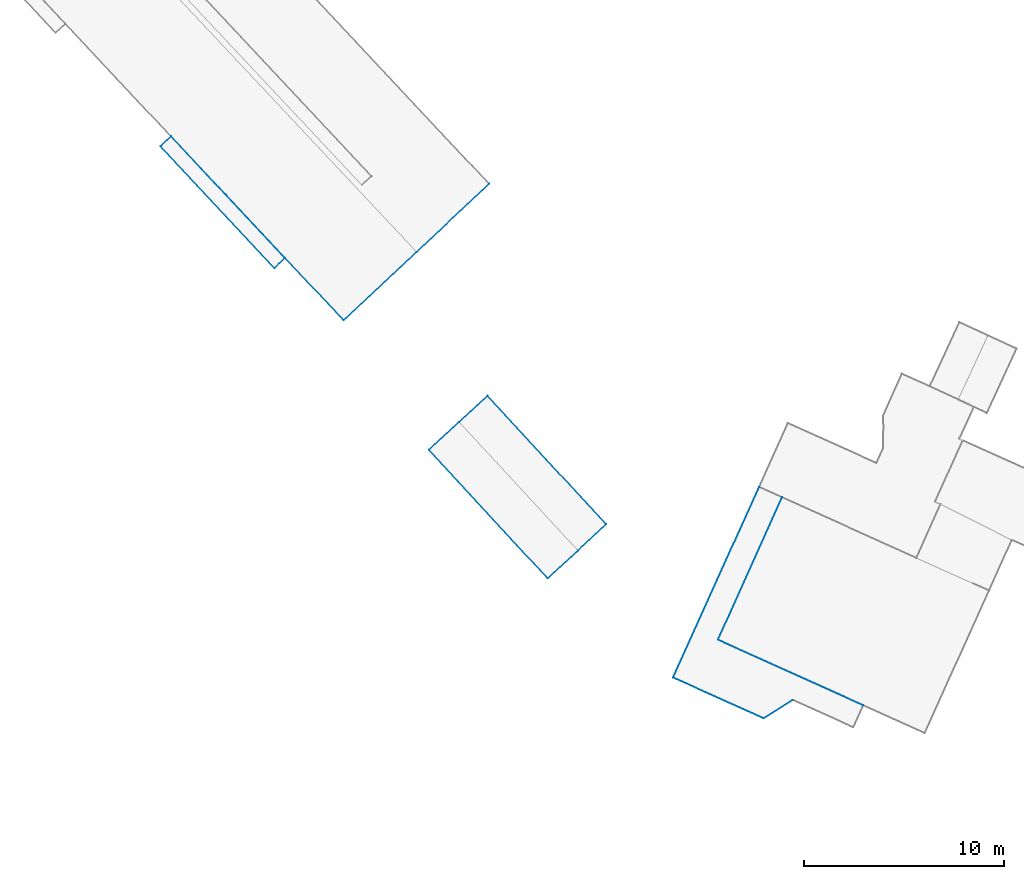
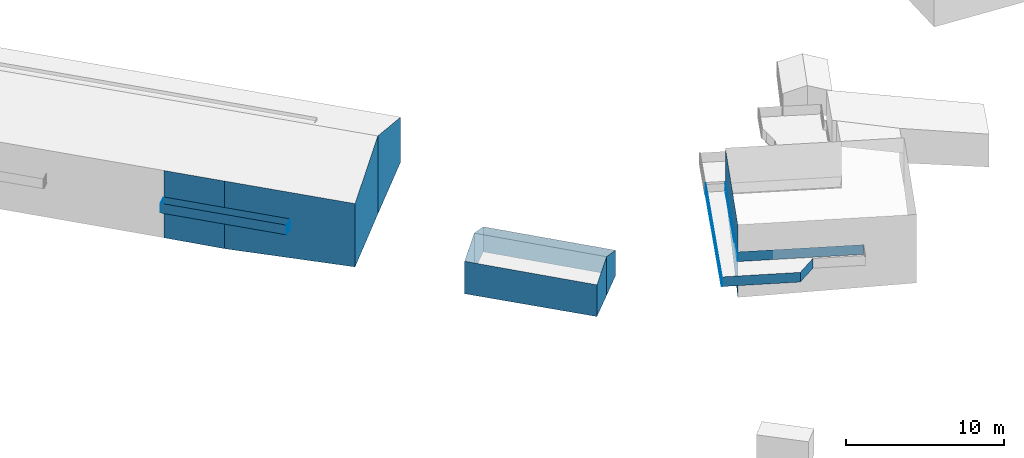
# Not in any storey, part 57 of 136: 29 walls.
"""IFC4 building model written with IfcOpenShell, lengths in metres."""

from ifc_helpers import new_model, entity, si_unit, converted_unit, frame, origin, place, context, subcontext, project, spatial, face_set, surface_model, element, save


model = new_model("IFC4")

# Units and contexts
model_context = context("Model", 3, precision=1e-05, world=origin())
body_context = subcontext(model_context, "Body", "Model", "MODEL_VIEW")
ifc_project = project(units=[converted_unit("PLANEANGLEUNIT", "DEGREE", entity("IfcRatioMeasure", 0.0174532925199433), si_unit("PLANEANGLEUNIT", "RADIAN"), dimensions=[0, 0, 0, 0, 0, 0, 0]), si_unit("AREAUNIT", "SQUARE_METRE"), si_unit("LENGTHUNIT", "METRE")], contexts=[model_context])

# Site, building
site_placement = place(None, origin())
site = spatial("IfcSite", under=ifc_project, at=site_placement, Name="_site")
building_1_placement = place(site_placement, origin())
building_1 = spatial("IfcBuilding", under=site, at=building_1_placement, Name="_building")

# Walls
wall_1_placement = place(building_1_placement, origin())
element("IfcWall", 1, at=wall_1_placement, inside=building_1, Name="Wall", PredefinedType="NOTDEFINED", context=body_context, shape_type="SurfaceModel", body=[
    surface_model("IfcFaceBasedSurfaceModel", [(110.26, 88.5, 43.45), (105.72, 90.54, 43.45), (105.72, 90.54, 44.2), (110.26, 88.5, 44.2)], [face_set([[[0, 1, 2, 3]]])]),
])
wall_2_placement = place(building_1_placement, origin())
element("IfcWall", 2, at=wall_2_placement, inside=building_1, Name="Wall", PredefinedType="NOTDEFINED", context=body_context, shape_type="SurfaceModel", body=[
    surface_model("IfcFaceBasedSurfaceModel", [(107.97, 92.43, 43.45), (115.25, 89.15, 43.45), (115.25, 89.15, 44.2), (107.97, 92.43, 44.2)], [face_set([[[0, 1, 2, 3]]])]),
])
for number, where, name in (
    (3, (0.0, 0.0, 0.0), "Wall"),
    (4, (0.0, 0.0, 0.0), "Wall"),
):
    element("IfcWall", number, at=place(building_1_placement, frame(where)), inside=building_1, Name=name, PredefinedType="NOTDEFINED", context=body_context, shape_type="SurfaceModel", body=[
        surface_model("IfcFaceBasedSurfaceModel", [(111.71, 89.42, 43.45), (110.26, 88.5, 43.45), (110.26, 88.5, 44.2), (111.71, 89.42, 44.2)], [face_set([[[0, 1, 2, 3]]])]),
    ])
wall_3_placement = place(building_1_placement, origin())
element("IfcWall", 5, at=wall_3_placement, inside=building_1, Name="Wall", PredefinedType="NOTDEFINED", context=body_context, shape_type="SurfaceModel", body=[
    surface_model("IfcFaceBasedSurfaceModel", [(111.18, 99.561, 43.45), (107.97, 92.43, 43.45), (107.97, 92.43, 44.2), (111.18, 99.561, 44.2)], [face_set([[[0, 1, 2, 3]]])]),
])
for number, where, name in (
    (6, (0.0, 0.0, 0.0), "Wall"),
    (7, (0.0, 0.0, 0.0), "Wall"),
):
    element("IfcWall", number, at=place(building_1_placement, frame(where)), inside=building_1, Name=name, PredefinedType="NOTDEFINED", context=body_context, shape_type="SurfaceModel", body=[
        surface_model("IfcFaceBasedSurfaceModel", [(105.72, 90.54, 43.45), (110.03, 100.08, 43.45), (110.03, 100.08, 44.2), (105.72, 90.54, 44.2)], [face_set([[[0, 1, 2, 3]]])]),
    ])
wall_4_placement = place(building_1_placement, origin())
element("IfcWall", 8, at=wall_4_placement, inside=building_1, Name="Wall", PredefinedType="NOTDEFINED", context=body_context, shape_type="SurfaceModel", body=[
    surface_model("IfcFaceBasedSurfaceModel", [(107.97, 92.43, 46.3), (111.18, 99.561, 46.77), (111.18, 99.561, 43.223), (107.97, 92.43, 40.681)], [face_set([[[0, 1, 2, 3]]])]),
])
wall_5_placement = place(building_1_placement, origin())
element("IfcWall", 9, at=wall_5_placement, inside=building_1, Name="Wall", PredefinedType="NOTDEFINED", context=body_context, shape_type="SurfaceModel", body=[
    surface_model("IfcFaceBasedSurfaceModel", [(107.97, 92.43, 43.45), (115.25, 89.15, 43.45), (115.25, 89.15, 44.2), (107.97, 92.43, 44.2)], [face_set([[[0, 1, 2, 3]]])]),
])
wall_6_placement = place(building_1_placement, origin())
element("IfcWall", 10, at=wall_6_placement, inside=building_1, Name="Wall", PredefinedType="NOTDEFINED", context=body_context, shape_type="SurfaceModel", body=[
    surface_model("IfcFaceBasedSurfaceModel", [(110.26, 88.5, 43.45), (105.72, 90.54, 43.45), (105.72, 90.54, 44.2), (110.26, 88.5, 44.2)], [face_set([[[0, 1, 2, 3]]])]),
])
wall_7_placement = place(building_1_placement, origin())
element("IfcWall", 11, at=wall_7_placement, inside=building_1, Name="Wall", PredefinedType="NOTDEFINED", context=body_context, shape_type="SurfaceModel", body=[
    surface_model("IfcFaceBasedSurfaceModel", [(111.18, 99.561, 43.45), (107.97, 92.43, 43.45), (107.97, 92.43, 44.2), (111.18, 99.561, 44.2)], [face_set([[[0, 1, 2, 3]]])]),
])

# Building
building_2_placement = place(site_placement, origin())
building_2 = spatial("IfcBuilding", under=site, at=building_2_placement, Name="_building")

# Walls
wall_8_placement = place(building_2_placement, origin())
element("IfcWall", 12, at=wall_8_placement, inside=building_2, Name="Wall", PredefinedType="NOTDEFINED", context=body_context, shape_type="SurfaceModel", body=[
    surface_model("IfcFaceBasedSurfaceModel", [(89.24, 108.43, 44.78), (83.34, 114.71, 44.78), (83.34, 114.71, 39.555), (89.24, 108.43, 39.89)], [face_set([[[0, 1, 2, 3]]])]),
])
wall_9_placement = place(building_2_placement, origin())
element("IfcWall", 13, at=wall_9_placement, inside=building_2, Name="Wall", PredefinedType="NOTDEFINED", context=body_context, shape_type="SurfaceModel", body=[
    surface_model("IfcFaceBasedSurfaceModel", [(86.3, 111.55, 41.99), (85.77, 111.05, 41.99), (85.77, 111.05, 42.74), (86.3, 111.55, 42.74)], [face_set([[[0, 1, 2, 3]]])]),
])
wall_10_placement = place(building_2_placement, origin())
element("IfcWall", 14, at=wall_10_placement, inside=building_2, Name="Wall", PredefinedType="NOTDEFINED", context=body_context, shape_type="SurfaceModel", body=[
    surface_model("IfcFaceBasedSurfaceModel", [(80.06, 117.14, 41.99), (80.59, 117.64, 41.99), (80.59, 117.64, 42.74), (80.06, 117.14, 42.74)], [face_set([[[0, 1, 2, 3]]])]),
])
wall_11_placement = place(building_2_placement, origin())
element("IfcWall", 15, at=wall_11_placement, inside=building_2, Name="Wall", PredefinedType="NOTDEFINED", context=body_context, shape_type="SurfaceModel", body=[
    surface_model("IfcFaceBasedSurfaceModel", [(80.59, 117.64, 41.99), (86.3, 111.55, 41.99), (86.3, 111.55, 42.74), (80.59, 117.64, 42.74)], [face_set([[[0, 1, 2, 3]]])]),
])
wall_12_placement = place(building_2_placement, origin())
element("IfcWall", 16, at=wall_12_placement, inside=building_2, Name="Wall", PredefinedType="NOTDEFINED", context=body_context, shape_type="SurfaceModel", body=[
    surface_model("IfcFaceBasedSurfaceModel", [(85.77, 111.05, 41.99), (80.06, 117.14, 41.99), (80.06, 117.14, 42.74), (85.77, 111.05, 42.74)], [face_set([[[0, 1, 2, 3]]])]),
])
wall_13_placement = place(building_2_placement, origin())
element("IfcWall", 17, at=wall_13_placement, inside=building_2, Name="Wall", PredefinedType="NOTDEFINED", context=body_context, shape_type="SurfaceModel", body=[
    surface_model("IfcFaceBasedSurfaceModel", [(86.3, 111.55, 41.99), (85.77, 111.05, 41.99), (85.77, 111.05, 42.74), (86.3, 111.55, 42.74)], [face_set([[[0, 1, 2, 3]]])]),
])
wall_14_placement = place(building_2_placement, origin())
element("IfcWall", 18, at=wall_14_placement, inside=building_2, Name="Wall", PredefinedType="NOTDEFINED", context=body_context, shape_type="SurfaceModel", body=[
    surface_model("IfcFaceBasedSurfaceModel", [(83.34, 114.71, 44.78), (80.59, 117.64, 44.78), (80.59, 117.64, 39.589), (83.34, 114.71, 39.555)], [face_set([[[0, 1, 2, 3]]])]),
])
wall_15_placement = place(building_2_placement, origin())
element("IfcWall", 19, at=wall_15_placement, inside=building_2, Name="Wall", PredefinedType="NOTDEFINED", context=body_context, shape_type="SurfaceModel", body=[
    surface_model("IfcFaceBasedSurfaceModel", [(80.59, 117.64, 41.99), (86.3, 111.55, 41.99), (86.3, 111.55, 42.74), (80.59, 117.64, 42.74)], [face_set([[[0, 1, 2, 3]]])]),
])
wall_16_placement = place(building_2_placement, origin())
element("IfcWall", 20, at=wall_16_placement, inside=building_2, Name="Wall", PredefinedType="NOTDEFINED", context=body_context, shape_type="SurfaceModel", body=[
    surface_model("IfcFaceBasedSurfaceModel", [(92.88, 111.851, 46.66), (89.24, 108.43, 44.78), (89.24, 108.43, 39.89), (92.88, 111.851, 40.631)], [face_set([[[0, 1, 2, 3]]])]),
])
wall_17_placement = place(building_2_placement, origin())
element("IfcWall", 21, at=wall_17_placement, inside=building_2, Name="Wall", PredefinedType="NOTDEFINED", context=body_context, shape_type="SurfaceModel", body=[
    surface_model("IfcFaceBasedSurfaceModel", [(80.06, 117.14, 41.99), (80.59, 117.64, 41.99), (80.59, 117.64, 42.74), (80.06, 117.14, 42.74)], [face_set([[[0, 1, 2, 3]]])]),
])
wall_18_placement = place(building_2_placement, origin())
element("IfcWall", 22, at=wall_18_placement, inside=building_2, Name="Wall", PredefinedType="NOTDEFINED", context=body_context, shape_type="SurfaceModel", body=[
    surface_model("IfcFaceBasedSurfaceModel", [(96.52, 115.26, 44.78), (92.88, 111.851, 46.66), (92.88, 111.851, 40.631), (96.52, 115.26, 41.323)], [face_set([[[0, 1, 2, 3]]])]),
])
wall_19_placement = place(building_2_placement, origin())
element("IfcWall", 23, at=wall_19_placement, inside=building_2, Name="Wall", PredefinedType="NOTDEFINED", context=body_context, shape_type="SurfaceModel", body=[
    surface_model("IfcFaceBasedSurfaceModel", [(85.77, 111.05, 41.99), (80.06, 117.14, 41.99), (80.06, 117.14, 42.74), (85.77, 111.05, 42.74)], [face_set([[[0, 1, 2, 3]]])]),
])

# Building
building_3_placement = place(site_placement, origin())
building_3 = spatial("IfcBuilding", under=site, at=building_3_placement, Name="_building")

# Walls
wall_20_placement = place(building_3_placement, origin())
element("IfcWall", 24, at=wall_20_placement, inside=building_3, Name="Wall", PredefinedType="NOTDEFINED", context=body_context, shape_type="SurfaceModel", body=[
    surface_model("IfcFaceBasedSurfaceModel", [(95.01, 103.34, 43.57), (96.43, 104.65, 42.77), (96.43, 104.65, 40.824), (95.01, 103.34, 40.625)], [face_set([[[0, 1, 2, 3]]])]),
])
wall_21_placement = place(building_3_placement, origin())
element("IfcWall", 25, at=wall_21_placement, inside=building_3, Name="Wall", PredefinedType="NOTDEFINED", context=body_context, shape_type="SurfaceModel", body=[
    surface_model("IfcFaceBasedSurfaceModel", [(99.45, 95.51, 42.77), (93.5, 101.94, 42.77), (93.5, 101.94, 40.262), (99.45, 95.51, 40.318)], [face_set([[[0, 1, 2, 3]]])]),
])
wall_22_placement = place(building_3_placement, origin())
element("IfcWall", 26, at=wall_22_placement, inside=building_3, Name="Wall", PredefinedType="NOTDEFINED", context=body_context, shape_type="SurfaceModel", body=[
    surface_model("IfcFaceBasedSurfaceModel", [(102.38, 98.22, 42.77), (100.96, 96.9, 43.57), (100.96, 96.9, 40.578), (102.38, 98.22, 40.821)], [face_set([[[0, 1, 2, 3]]])]),
])
wall_23_placement = place(building_3_placement, origin())
element("IfcWall", 27, at=wall_23_placement, inside=building_3, Name="Wall", PredefinedType="NOTDEFINED", context=body_context, shape_type="SurfaceModel", body=[
    surface_model("IfcFaceBasedSurfaceModel", [(96.43, 104.65, 42.77), (102.38, 98.22, 42.77), (102.38, 98.22, 40.821), (96.43, 104.65, 40.824)], [face_set([[[0, 1, 2, 3]]])]),
])
wall_24_placement = place(building_3_placement, origin())
element("IfcWall", 28, at=wall_24_placement, inside=building_3, Name="Wall", PredefinedType="NOTDEFINED", context=body_context, shape_type="SurfaceModel", body=[
    surface_model("IfcFaceBasedSurfaceModel", [(93.5, 101.94, 42.77), (95.01, 103.34, 43.57), (95.01, 103.34, 40.625), (93.5, 101.94, 40.262)], [face_set([[[0, 1, 2, 3]]])]),
])
wall_25_placement = place(building_3_placement, origin())
element("IfcWall", 29, at=wall_25_placement, inside=building_3, Name="Wall", PredefinedType="NOTDEFINED", context=body_context, shape_type="SurfaceModel", body=[
    surface_model("IfcFaceBasedSurfaceModel", [(100.96, 96.9, 43.57), (99.45, 95.51, 42.77), (99.45, 95.51, 40.318), (100.96, 96.9, 40.578)], [face_set([[[0, 1, 2, 3]]])]),
])

save(model, "model.ifc")
